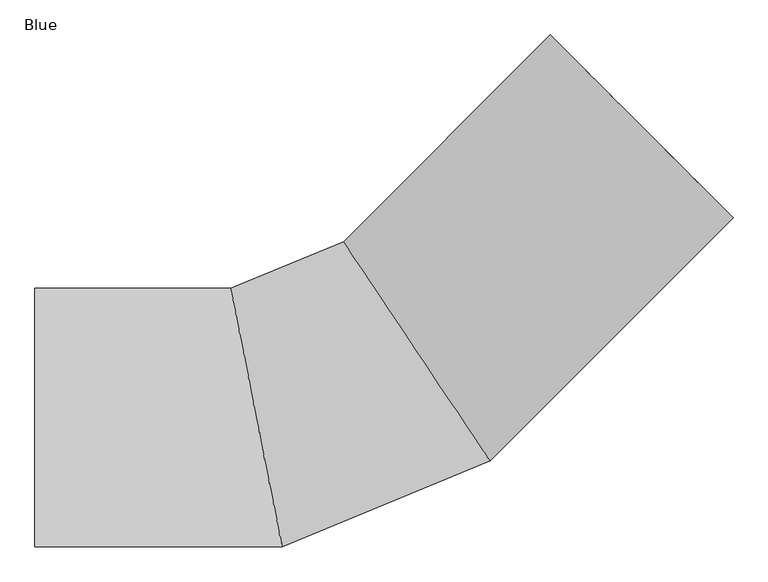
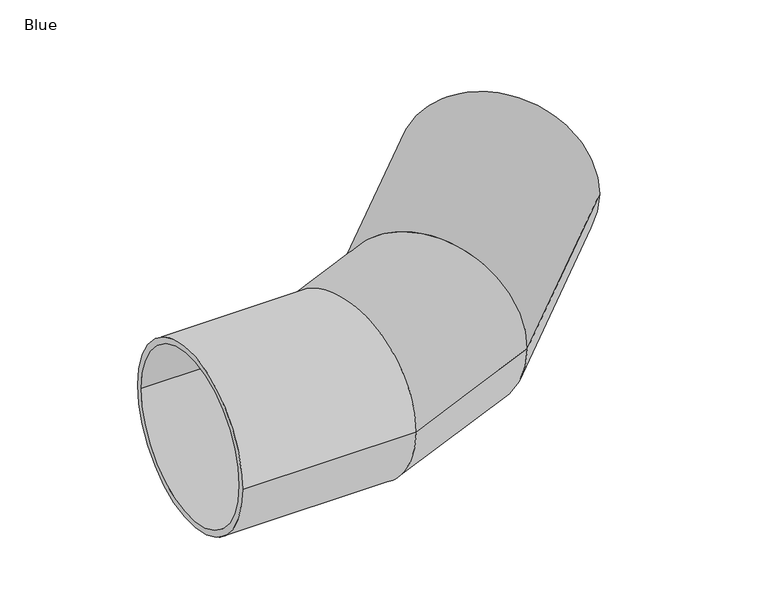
"""IFC4 building model written with IfcOpenShell, lengths in millimetres: pipe fitting geometry, AWADUKT PP SN10 SBend : Blue."""

import ifcopenshell
import ifcopenshell.guid

model = None  # the IFC model being written
_history = None  # IfcOwnerHistory: only IFC2X3 demands one
_inside = {}  # id of a spatial element -> (the spatial element, [elements in it])
_under = {}  # id of a project, library or spatial element -> (it, [spatial elements below it])
_declared = {}  # id of a project -> (the project, [libraries it declares])
_typed = {}  # id of a type object -> (the type object, [elements of that type])
_made_of = {}  # id of a material, layer set ... -> (it, [elements and type objects made of it])


def new_model(schema):
    """Start an empty IFC model of exactly this schema.

    Asked for "IFC4X3", IfcOpenShell would pick the latest addendum, in which some entities
    have other attributes; the version numbers below select the first issue.
    IFC2X3 requires an IfcOwnerHistory on every rooted entity: one is made here for all.
    """
    global model, _history
    if schema == "IFC4X3":
        model = ifcopenshell.file(schema_version=(4, 3, 0, 0))
    else:
        model = ifcopenshell.file(schema=schema)
    _inside.clear()
    _under.clear()
    _declared.clear()
    _typed.clear()
    _made_of.clear()
    _history = None
    if model.schema == "IFC2X3":
        org = make("IfcOrganization", Name="unknown")
        user = make(
            "IfcPersonAndOrganization",
            ThePerson=make("IfcPerson", FamilyName="unknown"),
            TheOrganization=org,
        )
        app = make(
            "IfcApplication",
            ApplicationDeveloper=org,
            Version="unknown",
            ApplicationFullName="unknown",
            ApplicationIdentifier="unknown",
        )
        _history = make(
            "IfcOwnerHistory",
            OwningUser=user,
            OwningApplication=app,
            ChangeAction="ADDED",
            CreationDate=0,
        )
    return model


def make(cls, **values):
    """One entity of the class cls with the attributes given. An attribute that is None is left unset."""
    return model.create_entity(
        cls, **{name: value for name, value in values.items() if value is not None}
    )


def rooted(cls, **values):
    """An entity with a GlobalId (a new one), such as an element, a storey or a relation."""
    return make(cls, GlobalId=ifcopenshell.guid.new(), OwnerHistory=_history, **values)


def si_unit(unit_type, name, prefix=None):
    """IfcSIUnit, for example si_unit("LENGTHUNIT", "METRE", prefix="MILLI")."""
    return make("IfcSIUnit", UnitType=unit_type, Prefix=prefix, Name=name)


def assignment(units):
    """IfcUnitAssignment: the units of a project."""
    return None if units is None else make("IfcUnitAssignment", Units=units)


def point(xyz):
    """IfcCartesianPoint."""
    return None if xyz is None else make("IfcCartesianPoint", Coordinates=xyz)


def direction(xyz):
    """IfcDirection."""
    return None if xyz is None else make("IfcDirection", DirectionRatios=xyz)


def frame(location, z_axis=None, x_axis=None):
    """IfcAxis2Placement3D, a coordinate frame: its origin and axes. An axis left out is left unset."""
    return make(
        "IfcAxis2Placement3D",
        Location=point(location),
        Axis=direction(z_axis),
        RefDirection=direction(x_axis),
    )


def origin():
    """The frame at (0, 0, 0) with its axes left unset."""
    return frame((0.0, 0.0, 0.0))


def place(relative_to, where):
    """IfcLocalPlacement: puts the frame where relative to a parent placement (None: the world)."""
    return make(
        "IfcLocalPlacement", PlacementRelTo=relative_to, RelativePlacement=where
    )


def context(
    kind, dimensions, precision=None, world=None, true_north=None, identifier=None
):
    """IfcGeometricRepresentationContext, for example the 3D "Model" context."""
    return make(
        "IfcGeometricRepresentationContext",
        ContextIdentifier=identifier,
        ContextType=kind,
        CoordinateSpaceDimension=dimensions,
        Precision=precision,
        WorldCoordinateSystem=world,
        TrueNorth=true_north,
    )


def project(units=None, contexts=None):
    """IfcProject with its units and contexts."""
    return rooted(
        "IfcProject",
        Name="project",
        RepresentationContexts=contexts,
        UnitsInContext=assignment(units),
    )


def spatial(cls, under=None, at=None, **own):
    """A site, building, storey or space (cls), placed at a placement, below another one or the project."""
    s = rooted(cls, ObjectPlacement=at, **own)
    if under is not None:
        _under.setdefault(under.id(), (under, []))[1].append(s)
    return s


def polyline(points):
    """IfcPolyline through the points."""
    return make("IfcPolyline", Points=[point(p) for p in points])


def circle_curve(where, radius):
    """IfcCircle in the frame where."""
    return make("IfcCircle", Position=where, Radius=radius)


def ellipse_curve(where, semi_axis1, semi_axis2):
    """IfcEllipse in the frame where."""
    return make(
        "IfcEllipse", Position=where, SemiAxis1=semi_axis1, SemiAxis2=semi_axis2
    )


def shape(context_of_items, identifier, shape_type, items):
    """IfcShapeRepresentation: the items that make up one representation, for example the "Body"."""
    return make(
        "IfcShapeRepresentation",
        ContextOfItems=context_of_items,
        RepresentationIdentifier=identifier,
        RepresentationType=shape_type,
        Items=items,
    )


def source(mapping_origin, context_of_items, identifier, shape_type, items):
    """IfcRepresentationMap: a shape defined once, which mapped items show again and again."""
    return make(
        "IfcRepresentationMap",
        MappingOrigin=mapping_origin,
        MappedRepresentation=shape(context_of_items, identifier, shape_type, items),
    )


def transform(
    local_origin,
    x_axis=None,
    y_axis=None,
    z_axis=None,
    scale=None,
    scale2=None,
    scale3=None,
    uniform=True,
):
    """IfcCartesianTransformationOperator3D, or its non-uniform kind. x_axis, y_axis, z_axis: its Axis1, 2, 3."""
    if uniform:
        return make(
            "IfcCartesianTransformationOperator3D",
            Axis1=direction(x_axis),
            Axis2=direction(y_axis),
            LocalOrigin=point(local_origin),
            Scale=scale,
            Axis3=direction(z_axis),
        )
    return make(
        "IfcCartesianTransformationOperator3DnonUniform",
        Axis1=direction(x_axis),
        Axis2=direction(y_axis),
        LocalOrigin=point(local_origin),
        Scale=scale,
        Axis3=direction(z_axis),
        Scale2=scale2,
        Scale3=scale3,
    )


def mapped(mapping_source, mapping_target):
    """IfcMappedItem: shows the shape of a source again, moved by a transform."""
    return make(
        "IfcMappedItem", MappingSource=mapping_source, MappingTarget=mapping_target
    )


def made_of(thing, what):
    """Note that an element or type object is made of a material, layer set ...; save() writes the relation."""
    if what is not None:
        _made_of.setdefault(what.id(), (what, []))[1].append(thing)
    return thing


def element(
    cls,
    number,
    at=None,
    inside=None,
    cuts=None,
    type_object=None,
    material=None,
    context=None,
    identifier="Body",
    shape_type=None,
    held_by="IfcProductDefinitionShape",
    body=None,
    shapes=None,
    **own,
):
    """One element of the class cls, such as IfcWall. Its Tag is "e" and its number.

    at: its placement. inside: the storey or other place that contains it. cuts: it is an
    opening in that element (IfcRelVoidsElement). A single representation is given by context,
    identifier, shape_type and body (its items); several are given by shapes. held_by: the class
    of the entity that holds the representations. save() writes the other relations.
    """
    e = rooted(cls, Tag="e%d" % number, ObjectPlacement=at, **own)
    if body is not None:
        shapes = [shape(context, identifier, shape_type, body)]
    if shapes is not None:
        e.Representation = make(held_by, Representations=shapes)
    if inside is not None:
        _inside.setdefault(inside.id(), (inside, []))[1].append(e)
    if cuts is not None:
        rooted(
            "IfcRelVoidsElement", RelatingBuildingElement=cuts, RelatedOpeningElement=e
        )
    if type_object is not None:
        _typed.setdefault(type_object.id(), (type_object, []))[1].append(e)
    return made_of(e, material)


def aggregate(whole, parts):
    """IfcRelAggregates: a whole, such as a stair, and the parts it consists of."""
    return rooted("IfcRelAggregates", RelatingObject=whole, RelatedObjects=parts)


def save(model, path):
    """Write the relations noted so far, then the file.

    IfcRelAggregates (storeys below a building ...), IfcRelContainedInSpatialStructure (elements
    in a storey), IfcRelDefinesByType, IfcRelAssociatesMaterial and IfcRelDeclares: one each for
    every whole, place, type object, material and project.
    """
    for whole, parts in _under.values():
        aggregate(whole, parts)
    for where, things in _inside.values():
        rooted(
            "IfcRelContainedInSpatialStructure",
            RelatedElements=things,
            RelatingStructure=where,
        )
    for kind, things in _typed.values():
        rooted("IfcRelDefinesByType", RelatedObjects=things, RelatingType=kind)
    for what, things in _made_of.values():
        rooted("IfcRelAssociatesMaterial", RelatedObjects=things, RelatingMaterial=what)
    for by, libraries in _declared.values():
        rooted("IfcRelDeclares", RelatingContext=by, RelatedDefinitions=libraries)
    model.write(path)


def plane_surface(at):
    """IfcPlane: the flat surface through the origin of the frame at, square to its z axis."""
    return make("IfcPlane", Position=at)


def cylinder_surface(at, radius):
    """IfcCylindricalSurface: all points at the distance radius from the z axis of the frame at."""
    return make("IfcCylindricalSurface", Position=at, Radius=radius)


def revolved_surface(curve, axis_point, axis_direction):
    """IfcSurfaceOfRevolution: the curve turned about the line through axis_point along axis_direction."""
    return make(
        "IfcSurfaceOfRevolution",
        SweptCurve=make("IfcArbitraryOpenProfileDef", ProfileType="CURVE", Curve=curve),
        AxisPosition=make("IfcAxis1Placement", Location=point(axis_point), Axis=direction(axis_direction)),
    )


def advanced_brep(points, edges, surfaces, faces):
    """IfcAdvancedBrep: a solid bounded by faces that lie on surfaces and meet in shared edges.

    An edge is (start, end): straight between two places in points (the first is 0);
    or (start, end, curve); or (start, end, curve, False) where it runs against its curve.
    A face is (place in surfaces, loops), or (place, loops, False) where it looks against
    its surface's normal. A loop lists edges by number (the first is 1), with a minus sign
    where the edge is run from its end to its start. The first loop is the outer one.
    """
    corners = [point(p) for p in points]
    vertices = [make("IfcVertexPoint", VertexGeometry=c) for c in corners]
    made = []
    for start, end, *more in edges:
        made.append(
            make(
                "IfcEdgeCurve",
                EdgeStart=vertices[start],
                EdgeEnd=vertices[end],
                EdgeGeometry=more[0] if more else make("IfcPolyline", Points=[corners[start], corners[end]]),
                SameSense=more[1] if len(more) > 1 else True,
            )
        )
    hull = []
    for where, loops, *sense in faces:
        bounds = []
        for j, loop in enumerate(loops):
            ring = [make("IfcOrientedEdge", EdgeElement=made[abs(k) - 1], Orientation=k > 0) for k in loop]
            bounds.append(
                make(
                    "IfcFaceOuterBound" if j == 0 else "IfcFaceBound",
                    Bound=make("IfcEdgeLoop", EdgeList=ring),
                    Orientation=True,
                )
            )
        hull.append(make("IfcAdvancedFace", Bounds=bounds, FaceSurface=surfaces[where], SameSense=sense[0] if sense else True))
    return make("IfcAdvancedBrep", Outer=make("IfcClosedShell", CfsFaces=hull))


def blue_563d0c32(model_context):
    return source(origin(), model_context, "Body", "AdvancedBrep", [
        advanced_brep(
        [(487.1965722, 932.6738444, 0.0), (932.6738444, 487.1965722, 0.0), (502.4700787, 917.4003379, 0.0), (917.4003379, 502.4700787, 0.0), (-4.2843893, 410.6458699, 0.0), (328.1111098, -86.8191494, 0.0), (-16.5198064, 428.9574657, 0.0), (340.3465269, -105.1307452, 0.0), (-287.3409586, 293.4, 0.0), (-170.6191814, -293.4, 0.0), (-291.6374657, 315.0, 0.0), (-166.3226742, -315.0, 0.0), (-769.0, 315.0, 0.0), (-769.0, -315.0, 0.0), (-769.0, 293.4, 0.0), (-769.0, -293.4, 0.0)],
        [
            (0, 1, circle_curve(frame((709.9352083, 709.9352083, 0.0), z_axis=(0.7071067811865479, 0.7071067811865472, 0.0), x_axis=(0.7071067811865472, -0.7071067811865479, 0.0)), 315.0)),
            (1, 0, circle_curve(frame((709.9352083, 709.9352083, 0.0), z_axis=(0.7071067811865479, 0.7071067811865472, 0.0), x_axis=(0.7071067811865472, -0.7071067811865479, 0.0)), 315.0)),
            (2, 3, circle_curve(frame((709.9352083, 709.9352083, 0.0), z_axis=(-0.7071067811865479, -0.7071067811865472, 0.0), x_axis=(0.7071067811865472, -0.7071067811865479, 0.0)), 293.4)),
            (3, 2, circle_curve(frame((709.9352083, 709.9352083, 0.0), z_axis=(-0.7071067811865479, -0.7071067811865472, 0.0), x_axis=(0.7071067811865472, -0.7071067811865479, 0.0)), 293.4)),
            (2, 4),
            (4, 5, ellipse_curve(frame((161.9133602, 161.9133602, 0.0), z_axis=(-0.8314696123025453, -0.5555702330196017, 0.0), x_axis=(0.5555702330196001, -0.8314696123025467, 0.0)), 299.1480458, 293.4)),
            (5, 3),
            (5, 4, ellipse_curve(frame((161.9133602, 161.9133602, 0.0), z_axis=(-0.8314696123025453, -0.5555702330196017, 0.0), x_axis=(0.5555702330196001, -0.8314696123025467, 0.0)), 299.1480458, 293.4)),
            (0, 6),
            (6, 7, ellipse_curve(frame((161.9133602, 161.9133602, 0.0), z_axis=(0.8314696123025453, 0.5555702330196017, 0.0), x_axis=(-0.5555702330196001, 0.8314696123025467, 0.0)), 321.1712148, 315.0)),
            (7, 1),
            (7, 6, ellipse_curve(frame((161.9133602, 161.9133602, 0.0), z_axis=(0.8314696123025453, 0.5555702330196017, 0.0), x_axis=(-0.5555702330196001, 0.8314696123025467, 0.0)), 321.1712148, 315.0)),
            (4, 8),
            (8, 9, ellipse_curve(frame((-228.98007, 0.0, 0.0), z_axis=(-0.9807852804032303, -0.19509032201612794, 0.0), x_axis=(0.1950903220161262, -0.9807852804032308, 0.0)), 299.1480458, 293.4)),
            (9, 5),
            (9, 8, ellipse_curve(frame((-228.98007, 0.0, 0.0), z_axis=(-0.9807852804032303, -0.19509032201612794, 0.0), x_axis=(0.1950903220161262, -0.9807852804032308, 0.0)), 299.1480458, 293.4)),
            (6, 10),
            (10, 11, ellipse_curve(frame((-228.98007, 0.0, 0.0), z_axis=(0.9807852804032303, 0.19509032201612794, 0.0), x_axis=(-0.1950903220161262, 0.9807852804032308, 0.0)), 321.1712148, 315.0)),
            (11, 7),
            (11, 10, ellipse_curve(frame((-228.98007, 0.0, 0.0), z_axis=(0.9807852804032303, 0.19509032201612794, 0.0), x_axis=(-0.1950903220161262, 0.9807852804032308, 0.0)), 321.1712148, 315.0)),
            (12, 13, circle_curve(frame((-769.0, 0.0, 0.0), z_axis=(-1.0, 0.0, 0.0), x_axis=(0.0, -1.0, 0.0)), 315.0)),
            (13, 12, circle_curve(frame((-769.0, 0.0, 0.0), z_axis=(-1.0, 0.0, 0.0), x_axis=(0.0, -1.0, 0.0)), 315.0)),
            (14, 15, circle_curve(frame((-769.0, 0.0, 0.0), z_axis=(1.0, 0.0, 0.0), x_axis=(0.0, -1.0, 0.0)), 293.4)),
            (15, 14, circle_curve(frame((-769.0, 0.0, 0.0), z_axis=(1.0, 0.0, 0.0), x_axis=(0.0, -1.0, 0.0)), 293.4)),
            (8, 14),
            (15, 9),
            (10, 12),
            (13, 11),
        ],
        [
            plane_surface(frame((709.9352083, 709.9352083, 0.0), z_axis=(0.7071067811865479, 0.7071067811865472, 0.0), x_axis=(0.0, 0.0, 1.0))),
            revolved_surface(polyline([(328.1111097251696, -86.81914947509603, 0.0), (917.4003379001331, 502.4700786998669, 0.0)]), (709.9352083, 709.9352083, 0.0), (-0.7071067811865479, -0.7071067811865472, 0.0)),
            cylinder_surface(frame((709.9352083, 709.9352083, 0.0), z_axis=(0.7071067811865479, 0.7071067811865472, 0.0), x_axis=(0.7071067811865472, -0.7071067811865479, 0.0)), 315.0),
            revolved_surface(polyline([(-170.61918139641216, -293.4000000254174, 0.0), (328.11110981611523, -86.81914943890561, 0.0)]), (161.9133602, 161.9133602, 0.0), (-0.923879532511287, -0.38268343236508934, 0.0)),
            cylinder_surface(frame((161.9133602, 161.9133602, 0.0), z_axis=(0.923879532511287, 0.38268343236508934, 0.0), x_axis=(0.38268343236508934, -0.923879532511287, 0.0)), 315.0),
            plane_surface(frame((-769.0, 0.0, 0.0), z_axis=(-1.0, 0.0, 0.0), x_axis=(0.0, 0.0, 1.0))),
            revolved_surface(polyline([(-769.0, -293.4, 0.0), (-170.6191814, -293.4, 0.0)]), (-228.98007, 0.0, 0.0), (-1.0, 0.0, 0.0)),
            cylinder_surface(frame((-228.98007, 0.0, 0.0), z_axis=(1.0, 0.0, 0.0), x_axis=(0.0, -1.0, 0.0)), 315.0),
        ],
        [
            (0, [[1, 2], [3, 4]]),
            (1, [[-3, 5, 6, 7]]),
            (1, [[-4, -7, 8, -5]]),
            (2, [[-1, 9, 10, 11]]),
            (2, [[-2, -11, 12, -9]]),
            (3, [[-6, 13, 14, 15]]),
            (3, [[-8, -15, 16, -13]]),
            (4, [[-10, 17, 18, 19]]),
            (4, [[-12, -19, 20, -17]]),
            (5, [[21, 22], [23, 24]]),
            (6, [[-14, 25, -24, 26]]),
            (6, [[-16, -26, -23, -25]]),
            (7, [[-18, 27, -22, 28]]),
            (7, [[-20, -28, -21, -27]]),
        ],
    ),
    ])


if __name__ == "__main__":
    model = new_model("IFC4")
    model_context = context("Model", 3, world=origin())
    ifc_project = project(units=[si_unit("LENGTHUNIT", "METRE", prefix="MILLI")], contexts=[model_context])
    site = spatial("IfcSite", under=ifc_project)
    building = spatial("IfcBuilding", under=site)
    placement = place(None, origin())
    blue_shape = blue_563d0c32(model_context)
    element("IfcPipeFitting", 1, ObjectType="AWADUKT PP SN10 SBend : Blue", at=placement, inside=building, context=model_context, shape_type="MappedRepresentation", body=[
        mapped(blue_shape, transform((0.0, 0.0, 0.0), x_axis=(1.0, 0.0, 0.0), y_axis=(0.0, 1.0, 0.0), z_axis=(0.0, 0.0, 1.0))),
    ])
    save(model, "model.ifc")
